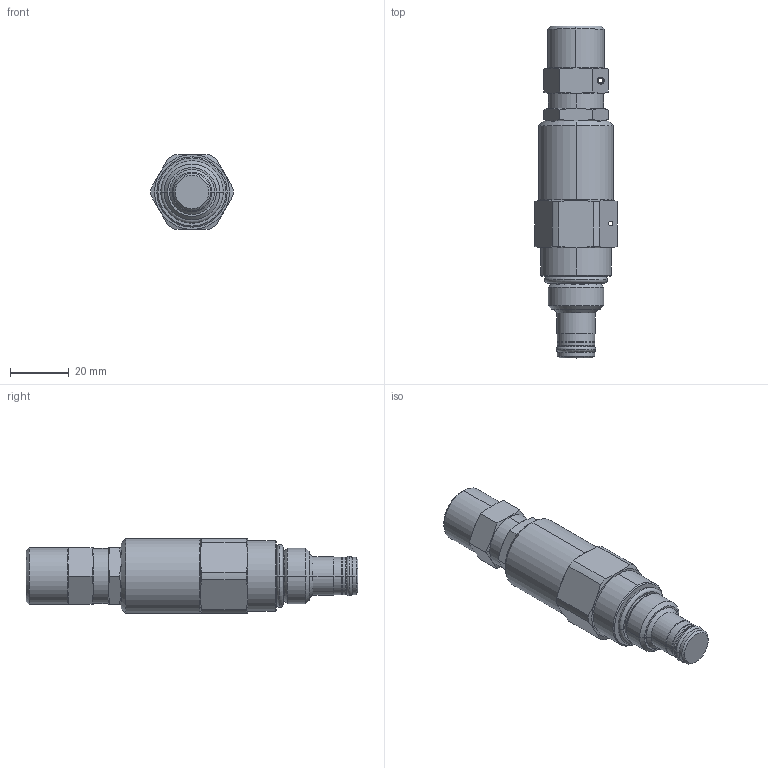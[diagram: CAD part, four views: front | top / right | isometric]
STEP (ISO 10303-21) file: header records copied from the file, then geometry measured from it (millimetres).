
FILE_DESCRIPTION((''),'2;1');
FILE_NAME('PRT0005','2009-03-21T',('JCS'),(''),'PRO/ENGINEER BY PARAMETRIC TECHNOLOGY CORPORATION, 2008510','PRO/ENGINEER BY PARAMETRIC TECHNOLOGY CORPORATION, 2008510','');
FILE_SCHEMA(('CONFIG_CONTROL_DESIGN'));
Length unit declared in the file: inch
Products named in the file (1): PRT0005
Bounding box: 27.94 x 112.66 x 25.4 mm (x, y, z)
Volume: 40854.2 mm3; surface area: 10291.5 mm2
Topology: 5 solids, 5 shells, 165 faces, 379 edges, 228 vertices
Faces by surface type: cone 58, cylinder 43, plane 32, torus 24, revolution 8
Entity records: 5437 total; most frequent: CARTESIAN_POINT 1656, DIRECTION 823, ORIENTED_EDGE 758, EDGE_CURVE 379, AXIS2_PLACEMENT_3D 361, VERTEX_POINT 228, CIRCLE 204, EDGE_LOOP 179
